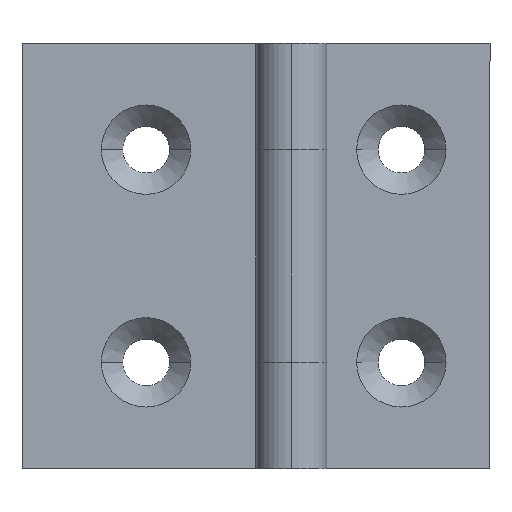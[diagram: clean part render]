
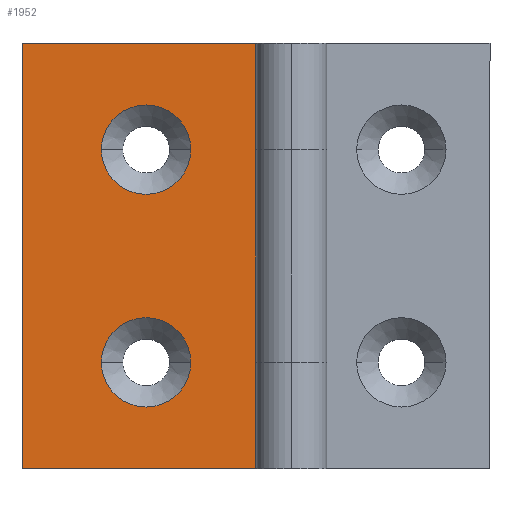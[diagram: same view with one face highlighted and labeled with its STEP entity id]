
A CAD part, top view. The second image highlights one B-rep face of the part: STEP entity #1952.
In plain terms, the highlighted planar face has unit normal (0, 0, 1).
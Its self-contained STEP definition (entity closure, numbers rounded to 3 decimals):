
#272 = VERTEX_POINT ( 'NONE', #952 ) ;
#763 = FACE_BOUND ( 'NONE', #1233, .T. ) ;
#769 = FACE_OUTER_BOUND ( 'NONE', #1215, .T. ) ;
#771 = FACE_BOUND ( 'NONE', #1179, .T. ) ;
#872 = LINE ( 'NONE', #2387, #874 ) ;
#874 = VECTOR ( 'NONE', #2388, 1000. ) ;
#952 = CARTESIAN_POINT ( 'NONE',  ( -5., 15., 0. ) ) ;
#978 = CARTESIAN_POINT ( 'NONE',  ( -38., 60., 0. ) ) ;
#986 = CARTESIAN_POINT ( 'NONE',  ( -26.8, 45., 0. ) ) ;
#987 = CARTESIAN_POINT ( 'NONE',  ( -5., 45., 0. ) ) ;
#994 = CARTESIAN_POINT ( 'NONE',  ( -38., 0., 0. ) ) ;
#1010 = CARTESIAN_POINT ( 'NONE',  ( -5., 0., 0. ) ) ;
#1021 = CARTESIAN_POINT ( 'NONE',  ( -14.2, 15., 0. ) ) ;
#1040 = CARTESIAN_POINT ( 'NONE',  ( -14.2, 45., 0. ) ) ;
#1177 = ORIENTED_EDGE ( 'NONE', *, *, #1822, .T. ) ;
#1179 = EDGE_LOOP ( 'NONE', ( #1348, #1345 ) ) ;
#1187 = ORIENTED_EDGE ( 'NONE', *, *, #2154, .T. ) ;
#1191 = ORIENTED_EDGE ( 'NONE', *, *, #1786, .T. ) ;
#1215 = EDGE_LOOP ( 'NONE', ( #1335, #1340, #1346, #1187, #1177, #1191 ) ) ;
#1233 = EDGE_LOOP ( 'NONE', ( #1347, #1349 ) ) ;
#1294 = AXIS2_PLACEMENT_3D ( 'NONE', #2201, #2195, #2205 ) ;
#1335 = ORIENTED_EDGE ( 'NONE', *, *, #1819, .T. ) ;
#1340 = ORIENTED_EDGE ( 'NONE', *, *, #1820, .F. ) ;
#1345 = ORIENTED_EDGE ( 'NONE', *, *, #1789, .F. ) ;
#1346 = ORIENTED_EDGE ( 'NONE', *, *, #1821, .F. ) ;
#1347 = ORIENTED_EDGE ( 'NONE', *, *, #1802, .F. ) ;
#1348 = ORIENTED_EDGE ( 'NONE', *, *, #1818, .F. ) ;
#1349 = ORIENTED_EDGE ( 'NONE', *, *, #1799, .F. ) ;
#1490 = VERTEX_POINT ( 'NONE', #978 ) ;
#1497 = VERTEX_POINT ( 'NONE', #986 ) ;
#1498 = VERTEX_POINT ( 'NONE', #987 ) ;
#1505 = VERTEX_POINT ( 'NONE', #994 ) ;
#1521 = VERTEX_POINT ( 'NONE', #1010 ) ;
#1532 = VERTEX_POINT ( 'NONE', #1021 ) ;
#1551 = VERTEX_POINT ( 'NONE', #1040 ) ;
#1588 = VERTEX_POINT ( 'NONE', #2619 ) ;
#1608 = VERTEX_POINT ( 'NONE', #2639 ) ;
#1634 = LINE ( 'NONE', #2665, #1636 ) ;
#1636 = VECTOR ( 'NONE', #2666, 1000. ) ;
#1637 = CIRCLE ( 'NONE', #2824, 6.3 ) ;
#1652 = CIRCLE ( 'NONE', #2828, 6.3 ) ;
#1659 = CIRCLE ( 'NONE', #2830, 6.3 ) ;
#1675 = LINE ( 'NONE', #2018, #1696 ) ;
#1687 = CIRCLE ( 'NONE', #2834, 6.3 ) ;
#1688 = LINE ( 'NONE', #2013, #1690 ) ;
#1689 = LINE ( 'NONE', #2022, #1692 ) ;
#1690 = VECTOR ( 'NONE', #2014, 1000. ) ;
#1691 = LINE ( 'NONE', #2024, #1694 ) ;
#1692 = VECTOR ( 'NONE', #2023, 1000. ) ;
#1694 = VECTOR ( 'NONE', #2026, 1000. ) ;
#1696 = VECTOR ( 'NONE', #2027, 1000. ) ;
#1786 = EDGE_CURVE ( 'NONE', #1498, #1588, #1634, .T. ) ;
#1789 = EDGE_CURVE ( 'NONE', #1608, #1532, #1637, .T. ) ;
#1799 = EDGE_CURVE ( 'NONE', #1497, #1551, #1652, .T. ) ;
#1802 = EDGE_CURVE ( 'NONE', #1551, #1497, #1659, .T. ) ;
#1818 = EDGE_CURVE ( 'NONE', #1532, #1608, #1687, .T. ) ;
#1819 = EDGE_CURVE ( 'NONE', #1588, #1490, #1688, .T. ) ;
#1820 = EDGE_CURVE ( 'NONE', #1505, #1490, #1689, .T. ) ;
#1821 = EDGE_CURVE ( 'NONE', #1521, #1505, #1691, .T. ) ;
#1822 = EDGE_CURVE ( 'NONE', #272, #1498, #1675, .T. ) ;
#1952 = ADVANCED_FACE ( 'NONE', ( #763, #771, #769 ), #2203, .T. ) ;
#2013 = CARTESIAN_POINT ( 'NONE',  ( -33., 60., 0. ) ) ;
#2014 = DIRECTION ( 'NONE',  ( -1., 0., 0. ) ) ;
#2018 = CARTESIAN_POINT ( 'NONE',  ( -5., 0., 0. ) ) ;
#2019 = CARTESIAN_POINT ( 'NONE',  ( -20.5, 15., 0. ) ) ;
#2020 = DIRECTION ( 'NONE',  ( 0., 0., 1. ) ) ;
#2021 = DIRECTION ( 'NONE',  ( 1., 0., 0. ) ) ;
#2022 = CARTESIAN_POINT ( 'NONE',  ( -38., 0., 0. ) ) ;
#2023 = DIRECTION ( 'NONE',  ( 0., 1., 0. ) ) ;
#2024 = CARTESIAN_POINT ( 'NONE',  ( -12.881, 0., 0. ) ) ;
#2026 = DIRECTION ( 'NONE',  ( -1., 0., 0. ) ) ;
#2027 = DIRECTION ( 'NONE',  ( 0., 1., 0. ) ) ;
#2154 = EDGE_CURVE ( 'NONE', #1521, #272, #872, .T. ) ;
#2195 = DIRECTION ( 'NONE',  ( 0., 0., 1. ) ) ;
#2201 = CARTESIAN_POINT ( 'NONE',  ( -33., 0., 0. ) ) ;
#2203 = PLANE ( 'NONE',  #1294 ) ;
#2205 = DIRECTION ( 'NONE',  ( 1., 0., 0. ) ) ;
#2387 = CARTESIAN_POINT ( 'NONE',  ( -5., 0., 0. ) ) ;
#2388 = DIRECTION ( 'NONE',  ( 0., 1., 0. ) ) ;
#2619 = CARTESIAN_POINT ( 'NONE',  ( -5., 60., 0. ) ) ;
#2639 = CARTESIAN_POINT ( 'NONE',  ( -26.8, 15., 0. ) ) ;
#2665 = CARTESIAN_POINT ( 'NONE',  ( -5., 0., 0. ) ) ;
#2666 = DIRECTION ( 'NONE',  ( 0., 1., 0. ) ) ;
#2682 = CARTESIAN_POINT ( 'NONE',  ( -20.5, 15., 0. ) ) ;
#2683 = DIRECTION ( 'NONE',  ( 0., 0., 1. ) ) ;
#2684 = DIRECTION ( 'NONE',  ( 1., 0., 0. ) ) ;
#2705 = CARTESIAN_POINT ( 'NONE',  ( -20.5, 45., 0. ) ) ;
#2706 = DIRECTION ( 'NONE',  ( 0., 0., 1. ) ) ;
#2707 = DIRECTION ( 'NONE',  ( 1., 0., 0. ) ) ;
#2711 = CARTESIAN_POINT ( 'NONE',  ( -20.5, 45., 0. ) ) ;
#2712 = DIRECTION ( 'NONE',  ( 0., 0., 1. ) ) ;
#2713 = DIRECTION ( 'NONE',  ( 1., 0., 0. ) ) ;
#2824 = AXIS2_PLACEMENT_3D ( 'NONE', #2682, #2683, #2684 ) ;
#2828 = AXIS2_PLACEMENT_3D ( 'NONE', #2705, #2706, #2707 ) ;
#2830 = AXIS2_PLACEMENT_3D ( 'NONE', #2711, #2712, #2713 ) ;
#2834 = AXIS2_PLACEMENT_3D ( 'NONE', #2019, #2020, #2021 ) ;
